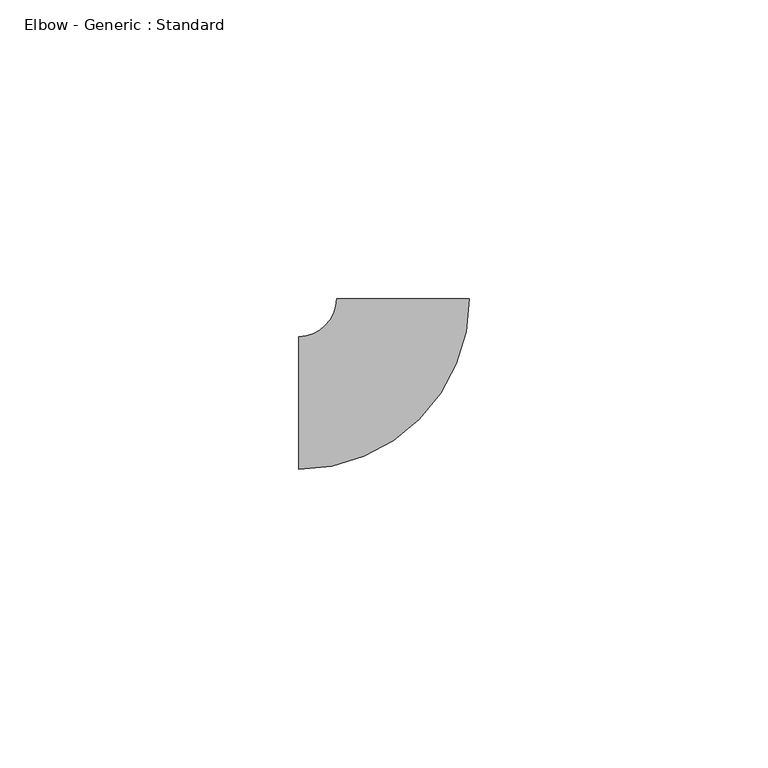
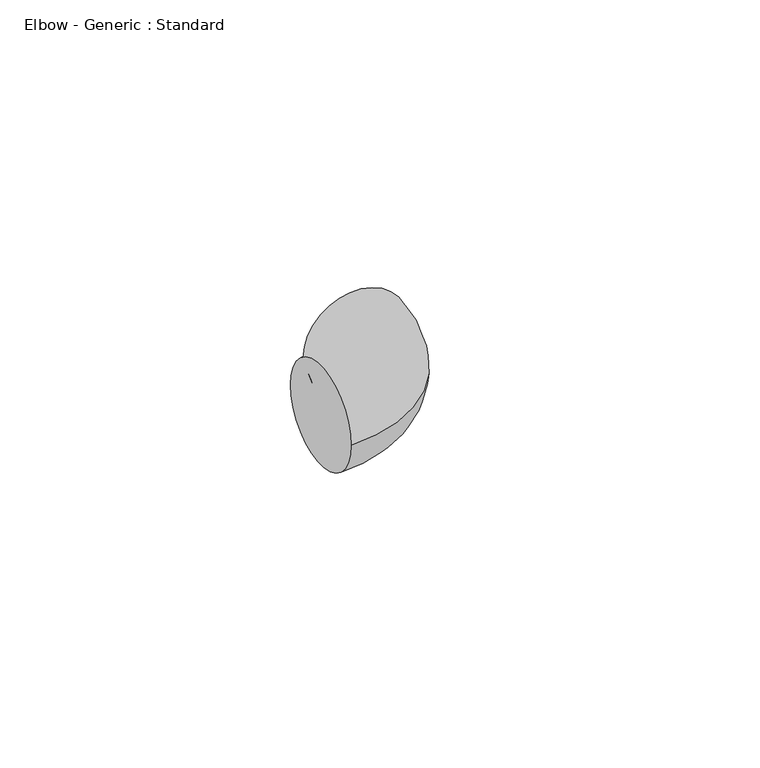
"""IFC4 building model written with IfcOpenShell, lengths in millimetres: pipe fitting geometry, Elbow - Generic : Standard."""

from ifc_helpers import new_model, si_unit, point, frame, origin, place, context, project, spatial, circle_curve, ellipse_curve, trimmed, source, transform, mapped, element, save
from ifc_brep_helpers import plane_surface, revolved_surface, advanced_brep


def elbow_generic_standard_d7b8c0aa(model_context):
    return source(origin(), model_context, "Body", "AdvancedBrep", [
        advanced_brep(
        [(-17.4650551, -11.1125, 0.0), (-17.4650551, 11.1125, 0.0), (11.1099446, 17.4666807, 0.0), (-11.1150552, 17.4634291, 0.0)],
        [
            (0, 1, circle_curve(frame((-17.4650551, 0.0, 0.0), z_axis=(-1.0, 0.0, 0.0), x_axis=(0.0, 1.0, 0.0)), 11.1125)),
            (1, 0, circle_curve(frame((-17.4650551, 0.0, 0.0), z_axis=(-1.0, 0.0, 0.0), x_axis=(0.0, 1.0, 0.0)), 11.1125)),
            (2, 3, circle_curve(frame((-0.0025553, 17.4650549, 0.0), z_axis=(-0.00014630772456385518, 0.9999999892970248, 0.0), x_axis=(-0.9999999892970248, -0.00014630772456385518, 0.0)), 11.1125)),
            (3, 2, circle_curve(frame((-0.0025553, 17.4650549, 0.0), z_axis=(-0.00014630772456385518, 0.9999999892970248, 0.0), x_axis=(-0.9999999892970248, -0.00014630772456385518, 0.0)), 11.1125)),
            (3, 1, circle_curve(frame((-17.4650551, 17.4625, 0.0), z_axis=(0.0, 0.0, -1.0), x_axis=(0.0, -1.0, 0.0)), 6.35)),
            (0, 2, circle_curve(frame((-17.4650551, 17.4625, 0.0), z_axis=(0.0, 0.0, 1.0), x_axis=(0.0, -1.0, 0.0)), 28.575)),
        ],
        [
            plane_surface(frame((-17.4650551, 0.0, 0.0), z_axis=(-1.0, 0.0, 0.0), x_axis=(0.0, 0.0, 1.0))),
            plane_surface(frame((-0.0025553, 17.4650549, 0.0), z_axis=(-0.00014630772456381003, 0.9999999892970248, 0.0), x_axis=(0.0, 0.0, 1.0))),
            revolved_surface(trimmed(ellipse_curve(frame((-17.4650551, 0.0, 0.0), z_axis=(-1.0, 0.0, 0.0), x_axis=(0.0, 1.0, 0.0)), 11.1125, 11.1125), [point((-17.4650551, -11.1125, 0.0))], [point((-17.4650551, 11.1125, 0.0))], True, "CARTESIAN"), (-17.4650551, 17.4625, 0.0), (0.0, 0.0, 1.0)),
            revolved_surface(trimmed(ellipse_curve(frame((-17.4650551, 0.0, 0.0), z_axis=(-1.0, 0.0, 0.0), x_axis=(0.0, 1.0, 0.0)), 11.1125, 11.1125), [point((-17.4650551, 11.1125, 0.0))], [point((-17.4650551, -11.1125, 0.0))], True, "CARTESIAN"), (-17.4650551, 17.4625, 0.0), (0.0, 0.0, 1.0)),
        ],
        [
            (0, [[1, 2]]),
            (1, [[3, 4]]),
            (2, [[5, -1, 6, -4]]),
            (3, [[-6, -2, -5, -3]]),
        ],
    ),
    ])


if __name__ == "__main__":
    model = new_model("IFC4")
    model_context = context("Model", 3, world=origin())
    ifc_project = project(units=[si_unit("LENGTHUNIT", "METRE", prefix="MILLI")], contexts=[model_context])
    site = spatial("IfcSite", under=ifc_project)
    building = spatial("IfcBuilding", under=site)
    placement = place(None, origin())
    elbow_generic_standard_shape = elbow_generic_standard_d7b8c0aa(model_context)
    element("IfcPipeFitting", 1, ObjectType="Elbow - Generic : Standard", at=placement, inside=building, context=model_context, shape_type="MappedRepresentation", body=[
        mapped(elbow_generic_standard_shape, transform((0.0, 0.0, 0.0), x_axis=(1.0, 0.0, 0.0), y_axis=(0.0, 1.0, 0.0), z_axis=(0.0, 0.0, 1.0))),
    ])
    save(model, "model.ifc")
